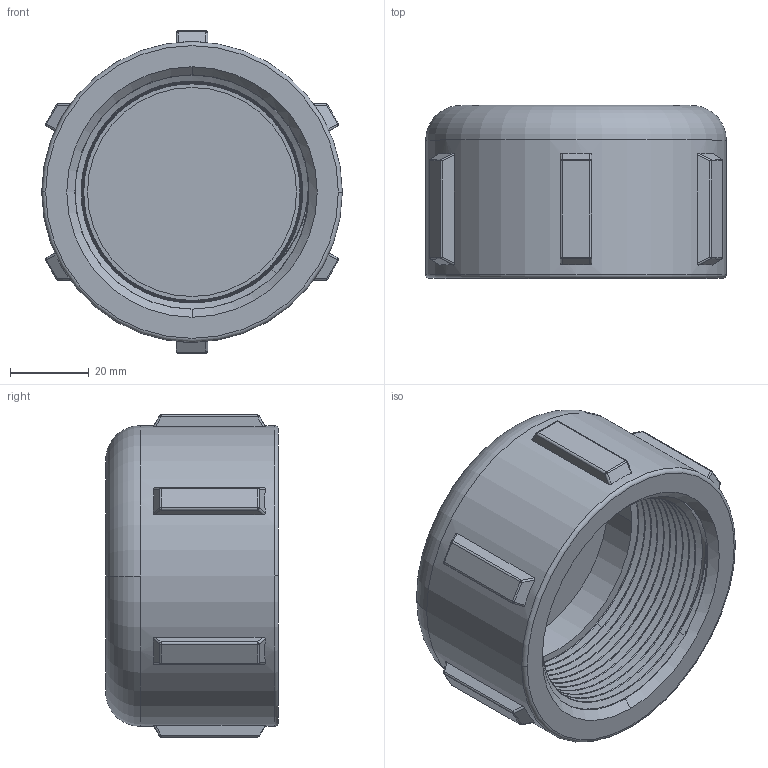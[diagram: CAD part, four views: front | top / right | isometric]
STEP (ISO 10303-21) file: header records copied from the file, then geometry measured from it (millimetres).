
FILE_DESCRIPTION(/* description */ ('Alibre Inc.'),/* implementation_level */ '2;1');
FILE_NAME(/* name */ 'export0',/* time_stamp */ '2019-10-09T11:57:52-04:00',/* author */ (''),/* organization */ (''),/* preprocessor_version */ 'ST-DEVELOPER v17',/* originating_system */ 'Alibre',/* authorisation */ '');
FILE_SCHEMA (('CONFIG_CONTROL_DESIGN'));
Length unit declared in the file: inch
Products named in the file (1): 200-62200-1000C
Bounding box: 76.5 x 44 x 82 mm (x, y, z)
Volume: 113709.9 mm3; surface area: 28864.4 mm2
Topology: 1 solids, 1 shells, 150 faces, 362 edges, 200 vertices
Faces by surface type: cylinder 50, plane 34, cone 24, sphere 23, bspline 15, torus 4
Full cylindrical faces by diameter (mm): 76.5 x1
Entity records: 29724 total; most frequent: CARTESIAN_POINT 26640, ORIENTED_EDGE 686, DIRECTION 523, EDGE_CURVE 343, AXIS2_PLACEMENT_3D 215, VERTEX_POINT 204, EDGE_LOOP 159, FACE_BOUND 159
